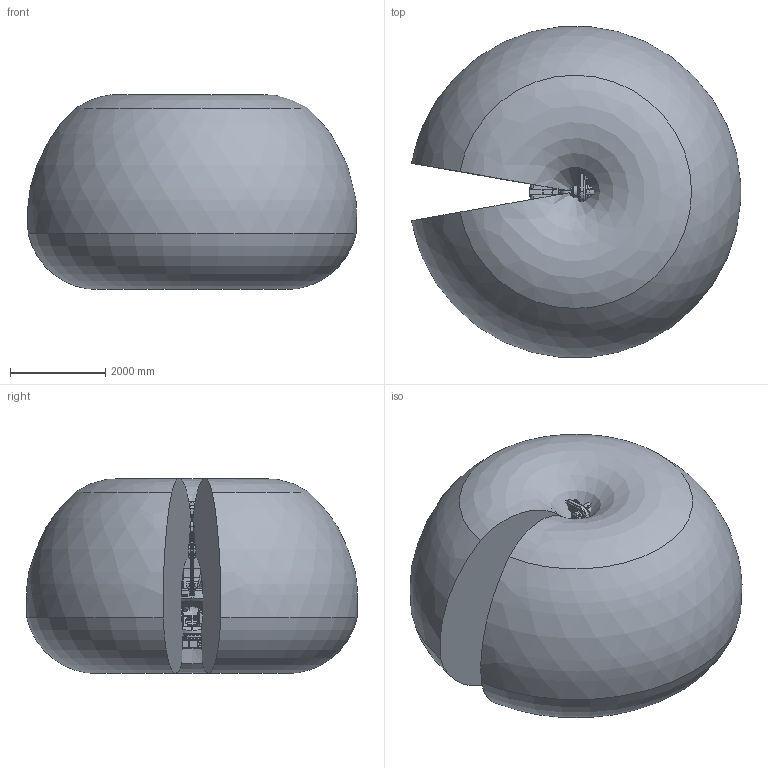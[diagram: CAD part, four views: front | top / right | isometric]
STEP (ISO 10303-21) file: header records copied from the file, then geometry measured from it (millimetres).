
FILE_DESCRIPTION(/* description */ (''),/* implementation_level */ '2;1');
FILE_NAME(/* name */ 'E:\组装完成的图纸\IRB 8700\IRB 8700-800-3.5\IRB 8700-800-3.5(带工作域).stp',/* time_stamp */ '2023-10-31T11:32:02+08:00',/* author */ ('Administrator'),/* organization */ (''),/* preprocessor_version */ 'ST-DEVELOPER v16.5',/* originating_system */ 'Autodesk Inventor 2017',/* authorisation */ '');
FILE_SCHEMA (('AUTOMOTIVE_DESIGN { 1 0 10303 214 3 1 1 }'));
Products named in the file (15): 部件3; IRB8700_800-350_IRC5_rev00_BAL-A-LEFT_CAD; IRB8700_800-350_IRC5_rev00_BAL-A-RIGHT_CAD; IRB8700_800-350_IRC5_rev00_BAL-B-LEFT_CAD; IRB8700_800-350_IRC5_rev00_BAL-B-RIGHT_CAD; IRB8700_800-350_IRC5_rev00_LINK1_CAD; IRB8700_800-350_IRC5_rev00_LINK2_CAD; IRB8700_800-350_IRC5_rev00_LINK3_CAD; IRB8700_800-350_IRC5_rev00_LINK4_CAD; IRB8700_800-350_IRC5_rev00_LINK5_CAD; IRB8700_800-350_IRC5_rev00_LINK6_CAD; IRB8700_800-350_IRC5_rev00_LINKARM_CAD; IRB8700_800-350_IRC5_rev00_LINKBAR_CAD; IRB8700_800-350_IRC5_rev01_BASE_CAD; IRB8700_800-350_IRC5_WORKING_AREA
Assembly tree (14 placements, depth 2):
  部件3
    IRB8700_800-350_IRC5_rev00_BAL-A-LEFT_CAD
    IRB8700_800-350_IRC5_rev00_BAL-A-RIGHT_CAD
    IRB8700_800-350_IRC5_rev00_BAL-B-LEFT_CAD
    IRB8700_800-350_IRC5_rev00_BAL-B-RIGHT_CAD
    IRB8700_800-350_IRC5_rev00_LINK1_CAD
    IRB8700_800-350_IRC5_rev00_LINK2_CAD
    IRB8700_800-350_IRC5_rev00_LINK3_CAD
    IRB8700_800-350_IRC5_rev00_LINK4_CAD
    IRB8700_800-350_IRC5_rev00_LINK5_CAD
    IRB8700_800-350_IRC5_rev00_LINK6_CAD
    IRB8700_800-350_IRC5_rev00_LINKARM_CAD
    IRB8700_800-350_IRC5_rev00_LINKBAR_CAD
    IRB8700_800-350_IRC5_rev01_BASE_CAD
    IRB8700_800-350_IRC5_WORKING_AREA
Bounding box: 6908.85 x 6941.87 x 4091.52 mm (x, y, z)
Volume: 107782875195.1 mm3; surface area: 182405645.7 mm2
Topology: 19 solids, 28 shells, 4879 faces, 12281 edges, 7970 vertices
Faces by surface type: plane 2845, cylinder 1072, cone 523, bspline 393, torus 42, sphere 4
Full cylindrical faces by diameter (mm): 1.6 x3, 5 x10, 5.45 x1, 6.6 x12, 6.8 x26, 8 x1, 8.5 x8, 8.6 x2, 8.8 x2, 10.2 x4, 11 x3, 11.05 x2, 11.2 x1, 11.5 x1, 12 x1, 12.9 x2, 13.3 x4, 14 x27, 15 x4, 16 x1, 17 x16, 18.3 x32, 18.5 x8, 19 x57, 20 x5, 21 x6, 22 x2, 22.114 x1, 24 x51, 24.5 x2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
Entity records: 259552 total; most frequent: CARTESIAN_POINT 146959, ORIENTED_EDGE 23034, DIRECTION 22367, EDGE_CURVE 11517, AXIS2_PLACEMENT_3D 8041, VERTEX_POINT 7838, LINE 6285, VECTOR 6285
